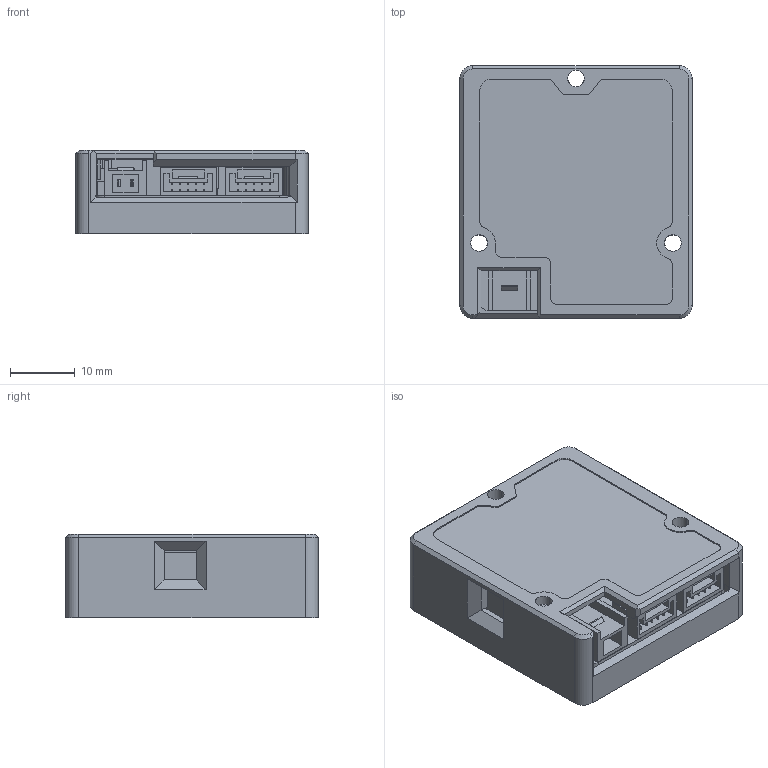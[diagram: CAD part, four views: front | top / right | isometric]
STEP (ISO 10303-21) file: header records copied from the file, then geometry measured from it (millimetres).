
FILE_DESCRIPTION (( 'STEP AP203' ), '1' );
FILE_NAME ('HI15-3D-A5 .STEP', '2026-03-17T02:01:57', ( '' ), ( '' ), 'SwSTEP 2.0', 'SolidWorks 2025', '' );
FILE_SCHEMA (( 'CONFIG_CONTROL_DESIGN' ));
Length unit declared in the file: millimetre
Products named in the file (1): HI15-3D-A5 
Bounding box: 36 x 39.15 x 13 mm (x, y, z)
Volume: 10443.7 mm3; surface area: 11883.2 mm2
Topology: 1 solids, 5 shells, 574 faces, 1569 edges, 1004 vertices
Faces by surface type: plane 427, cylinder 120, cone 27
Entity records: 18056 total; most frequent: CARTESIAN_POINT 3152, ORIENTED_EDGE 3122, DIRECTION 3044, EDGE_CURVE 1561, LINE 1220, VECTOR 1220, VERTEX_POINT 1004, AXIS2_PLACEMENT_3D 912
